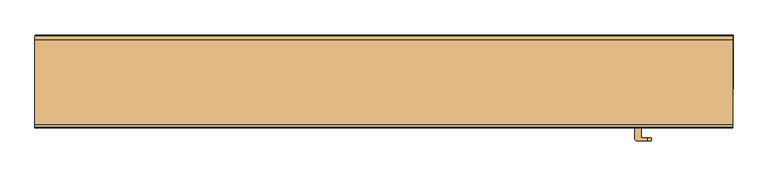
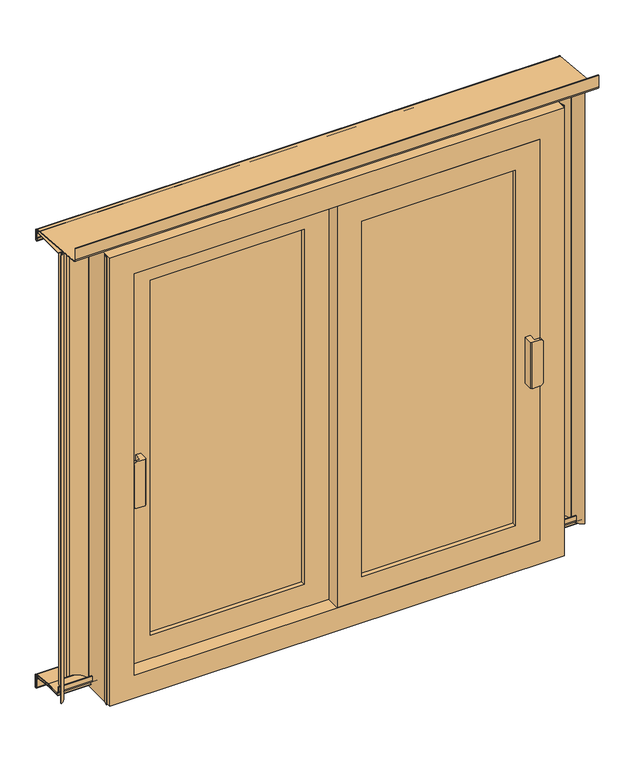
"""IFC4 building model written with IfcOpenShell, lengths in millimetres: door geometry, Fenetre pour Tenda V : Fenetre pour Tenda V."""

import ifcopenshell
import ifcopenshell.guid

model = None  # the IFC model being written
_history = None  # IfcOwnerHistory: only IFC2X3 demands one
_inside = {}  # id of a spatial element -> (the spatial element, [elements in it])
_under = {}  # id of a project, library or spatial element -> (it, [spatial elements below it])
_declared = {}  # id of a project -> (the project, [libraries it declares])
_typed = {}  # id of a type object -> (the type object, [elements of that type])
_made_of = {}  # id of a material, layer set ... -> (it, [elements and type objects made of it])


def new_model(schema):
    """Start an empty IFC model of exactly this schema.

    Asked for "IFC4X3", IfcOpenShell would pick the latest addendum, in which some entities
    have other attributes; the version numbers below select the first issue.
    IFC2X3 requires an IfcOwnerHistory on every rooted entity: one is made here for all.
    """
    global model, _history
    if schema == "IFC4X3":
        model = ifcopenshell.file(schema_version=(4, 3, 0, 0))
    else:
        model = ifcopenshell.file(schema=schema)
    _inside.clear()
    _under.clear()
    _declared.clear()
    _typed.clear()
    _made_of.clear()
    _history = None
    if model.schema == "IFC2X3":
        org = make("IfcOrganization", Name="unknown")
        user = make(
            "IfcPersonAndOrganization",
            ThePerson=make("IfcPerson", FamilyName="unknown"),
            TheOrganization=org,
        )
        app = make(
            "IfcApplication",
            ApplicationDeveloper=org,
            Version="unknown",
            ApplicationFullName="unknown",
            ApplicationIdentifier="unknown",
        )
        _history = make(
            "IfcOwnerHistory",
            OwningUser=user,
            OwningApplication=app,
            ChangeAction="ADDED",
            CreationDate=0,
        )
    return model


def make(cls, **values):
    """One entity of the class cls with the attributes given. An attribute that is None is left unset."""
    return model.create_entity(
        cls, **{name: value for name, value in values.items() if value is not None}
    )


def rooted(cls, **values):
    """An entity with a GlobalId (a new one), such as an element, a storey or a relation."""
    return make(cls, GlobalId=ifcopenshell.guid.new(), OwnerHistory=_history, **values)


def si_unit(unit_type, name, prefix=None):
    """IfcSIUnit, for example si_unit("LENGTHUNIT", "METRE", prefix="MILLI")."""
    return make("IfcSIUnit", UnitType=unit_type, Prefix=prefix, Name=name)


def assignment(units):
    """IfcUnitAssignment: the units of a project."""
    return None if units is None else make("IfcUnitAssignment", Units=units)


def point(xyz):
    """IfcCartesianPoint."""
    return None if xyz is None else make("IfcCartesianPoint", Coordinates=xyz)


def direction(xyz):
    """IfcDirection."""
    return None if xyz is None else make("IfcDirection", DirectionRatios=xyz)


def frame(location, z_axis=None, x_axis=None):
    """IfcAxis2Placement3D, a coordinate frame: its origin and axes. An axis left out is left unset."""
    return make(
        "IfcAxis2Placement3D",
        Location=point(location),
        Axis=direction(z_axis),
        RefDirection=direction(x_axis),
    )


def frame_2d(location, x_axis=None):
    """IfcAxis2Placement2D, a coordinate frame in the plane: its origin and x axis."""
    return make(
        "IfcAxis2Placement2D", Location=point(location), RefDirection=direction(x_axis)
    )


def origin():
    """The frame at (0, 0, 0) with its axes left unset."""
    return frame((0.0, 0.0, 0.0))


def origin_with_axes():
    """The frame at (0, 0, 0) with the z axis (0, 0, 1) and the x axis (1, 0, 0) written out."""
    return frame((0.0, 0.0, 0.0), z_axis=(0.0, 0.0, 1.0), x_axis=(1.0, 0.0, 0.0))


def place(relative_to, where):
    """IfcLocalPlacement: puts the frame where relative to a parent placement (None: the world)."""
    return make(
        "IfcLocalPlacement", PlacementRelTo=relative_to, RelativePlacement=where
    )


def context(
    kind, dimensions, precision=None, world=None, true_north=None, identifier=None
):
    """IfcGeometricRepresentationContext, for example the 3D "Model" context."""
    return make(
        "IfcGeometricRepresentationContext",
        ContextIdentifier=identifier,
        ContextType=kind,
        CoordinateSpaceDimension=dimensions,
        Precision=precision,
        WorldCoordinateSystem=world,
        TrueNorth=true_north,
    )


def project(units=None, contexts=None):
    """IfcProject with its units and contexts."""
    return rooted(
        "IfcProject",
        Name="project",
        RepresentationContexts=contexts,
        UnitsInContext=assignment(units),
    )


def spatial(cls, under=None, at=None, **own):
    """A site, building, storey or space (cls), placed at a placement, below another one or the project."""
    s = rooted(cls, ObjectPlacement=at, **own)
    if under is not None:
        _under.setdefault(under.id(), (under, []))[1].append(s)
    return s


def polyline(points):
    """IfcPolyline through the points."""
    return make("IfcPolyline", Points=[point(p) for p in points])


def circle_curve(where, radius):
    """IfcCircle in the frame where."""
    return make("IfcCircle", Position=where, Radius=radius)


def trimmed(basis, trim1, trim2, sense, master):
    """IfcTrimmedCurve: the piece of a basis curve between two trims."""
    return make(
        "IfcTrimmedCurve",
        BasisCurve=basis,
        Trim1=trim1,
        Trim2=trim2,
        SenseAgreement=sense,
        MasterRepresentation=master,
    )


def segment(curve, same_sense, transition):
    """IfcCompositeCurveSegment."""
    return make(
        "IfcCompositeCurveSegment",
        Transition=transition,
        SameSense=same_sense,
        ParentCurve=curve,
    )


def composite_curve(segments, self_intersect=None):
    """IfcCompositeCurve: segments joined end to end."""
    return make("IfcCompositeCurve", Segments=segments, SelfIntersect=self_intersect)


def outline(outer, holes=None, kind="AREA"):
    """IfcArbitraryClosedProfileDef: a profile drawn as a closed curve; with holes, ...WithVoids."""
    if holes is None:
        return make("IfcArbitraryClosedProfileDef", ProfileType=kind, OuterCurve=outer)
    return make(
        "IfcArbitraryProfileDefWithVoids",
        ProfileType=kind,
        OuterCurve=outer,
        InnerCurves=holes,
    )


def extrude(swept, where, along, depth):
    """IfcExtrudedAreaSolid: the profile swept, set in the frame where, extruded along a direction by depth."""
    return make(
        "IfcExtrudedAreaSolid",
        SweptArea=swept,
        Position=where,
        ExtrudedDirection=direction(along),
        Depth=depth,
    )


def faces_of(points, faces, orient=None, outer=None):
    """IfcFace entities. A face is a list of loops; a loop is a list of indices into points, from 0.

    orient and outer hold one flag for each loop. By default every Orientation is true, the
    first loop of a face is its IfcFaceOuterBound and the others are IfcFaceBound.
    """
    made = []
    for i, loops in enumerate(faces):
        bounds = []
        for j, loop in enumerate(loops):
            is_outer = j == 0 if outer is None else outer[i][j]
            bounds.append(
                make(
                    "IfcFaceOuterBound" if is_outer else "IfcFaceBound",
                    Bound=make("IfcPolyLoop", Polygon=[points[k] for k in loop]),
                    Orientation=True if orient is None else orient[i][j],
                )
            )
        made.append(make("IfcFace", Bounds=bounds))
    return made


def faceted_brep(points, faces, orient=None, outer=None, voids=None):
    """IfcFacetedBrep: a solid bounded by flat faces; with voids (closed shells), ...WithVoids."""
    shared = [point(p) for p in points]
    hull = make("IfcClosedShell", CfsFaces=faces_of(shared, faces, orient, outer))
    if voids is None:
        return make("IfcFacetedBrep", Outer=hull)
    return make(
        "IfcFacetedBrepWithVoids",
        Outer=hull,
        Voids=[
            make(cls, CfsFaces=faces_of(shared, fs, o, b)) for cls, fs, o, b in voids
        ],
    )


def shape(context_of_items, identifier, shape_type, items):
    """IfcShapeRepresentation: the items that make up one representation, for example the "Body"."""
    return make(
        "IfcShapeRepresentation",
        ContextOfItems=context_of_items,
        RepresentationIdentifier=identifier,
        RepresentationType=shape_type,
        Items=items,
    )


def source(mapping_origin, context_of_items, identifier, shape_type, items):
    """IfcRepresentationMap: a shape defined once, which mapped items show again and again."""
    return make(
        "IfcRepresentationMap",
        MappingOrigin=mapping_origin,
        MappedRepresentation=shape(context_of_items, identifier, shape_type, items),
    )


def transform(
    local_origin,
    x_axis=None,
    y_axis=None,
    z_axis=None,
    scale=None,
    scale2=None,
    scale3=None,
    uniform=True,
):
    """IfcCartesianTransformationOperator3D, or its non-uniform kind. x_axis, y_axis, z_axis: its Axis1, 2, 3."""
    if uniform:
        return make(
            "IfcCartesianTransformationOperator3D",
            Axis1=direction(x_axis),
            Axis2=direction(y_axis),
            LocalOrigin=point(local_origin),
            Scale=scale,
            Axis3=direction(z_axis),
        )
    return make(
        "IfcCartesianTransformationOperator3DnonUniform",
        Axis1=direction(x_axis),
        Axis2=direction(y_axis),
        LocalOrigin=point(local_origin),
        Scale=scale,
        Axis3=direction(z_axis),
        Scale2=scale2,
        Scale3=scale3,
    )


def mapped(mapping_source, mapping_target):
    """IfcMappedItem: shows the shape of a source again, moved by a transform."""
    return make(
        "IfcMappedItem", MappingSource=mapping_source, MappingTarget=mapping_target
    )


def made_of(thing, what):
    """Note that an element or type object is made of a material, layer set ...; save() writes the relation."""
    if what is not None:
        _made_of.setdefault(what.id(), (what, []))[1].append(thing)
    return thing


def element(
    cls,
    number,
    at=None,
    inside=None,
    cuts=None,
    type_object=None,
    material=None,
    context=None,
    identifier="Body",
    shape_type=None,
    held_by="IfcProductDefinitionShape",
    body=None,
    shapes=None,
    **own,
):
    """One element of the class cls, such as IfcWall. Its Tag is "e" and its number.

    at: its placement. inside: the storey or other place that contains it. cuts: it is an
    opening in that element (IfcRelVoidsElement). A single representation is given by context,
    identifier, shape_type and body (its items); several are given by shapes. held_by: the class
    of the entity that holds the representations. save() writes the other relations.
    """
    e = rooted(cls, Tag="e%d" % number, ObjectPlacement=at, **own)
    if body is not None:
        shapes = [shape(context, identifier, shape_type, body)]
    if shapes is not None:
        e.Representation = make(held_by, Representations=shapes)
    if inside is not None:
        _inside.setdefault(inside.id(), (inside, []))[1].append(e)
    if cuts is not None:
        rooted(
            "IfcRelVoidsElement", RelatingBuildingElement=cuts, RelatedOpeningElement=e
        )
    if type_object is not None:
        _typed.setdefault(type_object.id(), (type_object, []))[1].append(e)
    return made_of(e, material)


def aggregate(whole, parts):
    """IfcRelAggregates: a whole, such as a stair, and the parts it consists of."""
    return rooted("IfcRelAggregates", RelatingObject=whole, RelatedObjects=parts)


def save(model, path):
    """Write the relations noted so far, then the file.

    IfcRelAggregates (storeys below a building ...), IfcRelContainedInSpatialStructure (elements
    in a storey), IfcRelDefinesByType, IfcRelAssociatesMaterial and IfcRelDeclares: one each for
    every whole, place, type object, material and project.
    """
    for whole, parts in _under.values():
        aggregate(whole, parts)
    for where, things in _inside.values():
        rooted(
            "IfcRelContainedInSpatialStructure",
            RelatedElements=things,
            RelatingStructure=where,
        )
    for kind, things in _typed.values():
        rooted("IfcRelDefinesByType", RelatedObjects=things, RelatingType=kind)
    for what, things in _made_of.values():
        rooted("IfcRelAssociatesMaterial", RelatedObjects=things, RelatingMaterial=what)
    for by, libraries in _declared.values():
        rooted("IfcRelDeclares", RelatingContext=by, RelatedDefinitions=libraries)
    model.write(path)


def plane_surface(at):
    """IfcPlane: the flat surface through the origin of the frame at, square to its z axis."""
    return make("IfcPlane", Position=at)


def cylinder_surface(at, radius):
    """IfcCylindricalSurface: all points at the distance radius from the z axis of the frame at."""
    return make("IfcCylindricalSurface", Position=at, Radius=radius)


def advanced_brep(points, edges, surfaces, faces):
    """IfcAdvancedBrep: a solid bounded by faces that lie on surfaces and meet in shared edges.

    An edge is (start, end): straight between two places in points (the first is 0);
    or (start, end, curve); or (start, end, curve, False) where it runs against its curve.
    A face is (place in surfaces, loops), or (place, loops, False) where it looks against
    its surface's normal. A loop lists edges by number (the first is 1), with a minus sign
    where the edge is run from its end to its start. The first loop is the outer one.
    """
    corners = [point(p) for p in points]
    vertices = [make("IfcVertexPoint", VertexGeometry=c) for c in corners]
    made = []
    for start, end, *more in edges:
        made.append(
            make(
                "IfcEdgeCurve",
                EdgeStart=vertices[start],
                EdgeEnd=vertices[end],
                EdgeGeometry=more[0] if more else make("IfcPolyline", Points=[corners[start], corners[end]]),
                SameSense=more[1] if len(more) > 1 else True,
            )
        )
    hull = []
    for where, loops, *sense in faces:
        bounds = []
        for j, loop in enumerate(loops):
            ring = [make("IfcOrientedEdge", EdgeElement=made[abs(k) - 1], Orientation=k > 0) for k in loop]
            bounds.append(
                make(
                    "IfcFaceOuterBound" if j == 0 else "IfcFaceBound",
                    Bound=make("IfcEdgeLoop", EdgeList=ring),
                    Orientation=True,
                )
            )
        hull.append(make("IfcAdvancedFace", Bounds=bounds, FaceSurface=surfaces[where], SameSense=sense[0] if sense else True))
    return make("IfcAdvancedBrep", Outer=make("IfcClosedShell", CfsFaces=hull))


def door_b409336b(model_context):
    return source(origin(), model_context, "Body", "SolidModel", [
        advanced_brep(
        [(384.0, -60.7721751, 400.0), (384.0, -43.2408569, 400.0), (394.0, -43.2408569, 400.0), (394.0, -58.2408569, 400.0), (403.0477825, -58.2408569, 400.0), (403.0477825, -63.2408569, 400.0), (386.4686818, -63.2408569, 400.0), (384.0, -60.7721751, 500.0), (386.4686818, -63.2408569, 500.0), (403.0477825, -63.2408569, 500.0), (403.0477825, -58.2408569, 500.0), (394.0, -58.2408569, 500.0), (394.0, -43.2408569, 500.0), (384.0, -43.2408569, 500.0), (409.0, -58.2408569, 494.0477825), (409.0, -58.2408569, 405.9522175), (409.0, -63.2408569, 494.0477825), (409.0, -63.2408569, 405.9522175)],
        [
            (0, 1),
            (1, 2),
            (2, 3),
            (3, 4),
            (4, 5),
            (5, 6),
            (6, 0),
            (7, 8),
            (8, 9),
            (9, 10),
            (10, 11),
            (11, 12),
            (12, 13),
            (13, 7),
            (0, 7),
            (13, 1),
            (12, 2),
            (11, 3),
            (10, 14, circle_curve(frame((403.0477825, -58.2408569, 494.0477825), z_axis=(0.0, 1.0, 0.0), x_axis=(1.0, 0.0, 0.0)), 5.9522175)),
            (14, 15),
            (15, 4, circle_curve(frame((403.0477825, -58.2408569, 405.9522175), z_axis=(0.0, 1.0, 0.0), x_axis=(1.0, 0.0, 0.0)), 5.9522175)),
            (14, 16),
            (16, 17),
            (17, 15),
            (8, 6),
            (5, 17, circle_curve(frame((403.0477825, -63.2408569, 405.9522175), z_axis=(0.0, -1.0, 0.0), x_axis=(1.0, 0.0, 0.0)), 5.9522175)),
            (16, 9, circle_curve(frame((403.0477825, -63.2408569, 494.0477825), z_axis=(0.0, -1.0, 0.0), x_axis=(1.0, 0.0, 0.0)), 5.9522175)),
        ],
        [
            plane_surface(frame((384.0, -43.2408569, 400.0), z_axis=(0.0, 0.0, -1.0), x_axis=(0.0, 1.0, 0.0))),
            plane_surface(frame((384.0, -43.2408569, 500.0), z_axis=(0.0, 0.0, 1.0), x_axis=(0.0, -1.0, 0.0))),
            plane_surface(frame((384.0, -60.7721751, 400.0), z_axis=(-1.0, 0.0, 0.0), x_axis=(0.0, 0.0, 1.0))),
            plane_surface(frame((384.0, -43.2408569, 400.0), z_axis=(0.0, 1.0, 0.0), x_axis=(0.0, 0.0, 1.0))),
            plane_surface(frame((394.0, -43.2408569, 400.0), z_axis=(1.0, 0.0, 0.0), x_axis=(0.0, 0.0, 1.0))),
            plane_surface(frame((394.0, -58.2408569, 400.0), z_axis=(0.0, 1.0, 0.0), x_axis=(0.0, 0.0, 1.0))),
            plane_surface(frame((409.0, -58.2408569, 400.0), z_axis=(1.0, 0.0, 0.0), x_axis=(0.0, 0.0, 1.0))),
            plane_surface(frame((409.0, -63.2408569, 400.0), z_axis=(0.0, -1.0, 0.0), x_axis=(0.0, 0.0, 1.0))),
            plane_surface(frame((386.4686818, -63.2408569, 400.0), z_axis=(-0.7071067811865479, -0.7071067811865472, 0.0), x_axis=(0.0, 0.0, 1.0))),
            cylinder_surface(frame((403.0477825, -58.2408569, 494.0477825), z_axis=(0.0, 1.0, 0.0), x_axis=(1.0, 0.0, 0.0)), 5.9522175),
            cylinder_surface(frame((403.0477825, -58.2408569, 405.9522175), z_axis=(0.0, 1.0, 0.0), x_axis=(1.0, 0.0, 0.0)), 5.9522175),
        ],
        [
            (0, [[1, 2, 3, 4, 5, 6, 7]]),
            (1, [[8, 9, 10, 11, 12, 13, 14]]),
            (2, [[-1, 15, -14, 16]]),
            (3, [[-2, -16, -13, 17]]),
            (4, [[-3, -17, -12, 18]]),
            (5, [[-18, -11, 19, 20, 21, -4]]),
            (6, [[-20, 22, 23, 24]]),
            (7, [[25, -6, 26, -23, 27, -9]]),
            (8, [[-7, -25, -8, -15]]),
            (9, [[-10, -27, -22, -19]]),
            (10, [[-5, -21, -24, -26]]),
        ],
    ),
        advanced_brep(
        [(-384.0, -30.7721751, 400.0), (-386.4686818, -33.2408569, 400.0), (-403.0477825, -33.2408569, 400.0), (-403.0477825, -28.2408569, 400.0), (-394.0, -28.2408569, 400.0), (-394.0, -13.2408569, 400.0), (-384.0, -13.2408569, 400.0), (-384.0, -30.7721751, 500.0), (-384.0, -13.2408569, 500.0), (-394.0, -13.2408569, 500.0), (-394.0, -28.2408569, 500.0), (-403.0477825, -28.2408569, 500.0), (-403.0477825, -33.2408569, 500.0), (-386.4686818, -33.2408569, 500.0), (-409.0, -28.2408569, 405.9522175), (-409.0, -28.2408569, 494.0477825), (-409.0, -33.2408569, 405.9522175), (-409.0, -33.2408569, 494.0477825)],
        [
            (0, 1),
            (1, 2),
            (2, 3),
            (3, 4),
            (4, 5),
            (5, 6),
            (6, 0),
            (7, 8),
            (8, 9),
            (9, 10),
            (10, 11),
            (11, 12),
            (12, 13),
            (13, 7),
            (6, 8),
            (7, 0),
            (5, 9),
            (4, 10),
            (3, 14, circle_curve(frame((-403.0477825, -28.2408569, 405.9522175), z_axis=(0.0, 1.0, 0.0), x_axis=(-1.0, 0.0, 0.0)), 5.9522175)),
            (14, 15),
            (15, 11, circle_curve(frame((-403.0477825, -28.2408569, 494.0477825), z_axis=(0.0, 1.0, 0.0), x_axis=(-1.0, 0.0, 0.0)), 5.9522175)),
            (14, 16),
            (16, 17),
            (17, 15),
            (12, 17, circle_curve(frame((-403.0477825, -33.2408569, 494.0477825), z_axis=(0.0, -1.0, 0.0), x_axis=(-1.0, 0.0, 0.0)), 5.9522175)),
            (16, 2, circle_curve(frame((-403.0477825, -33.2408569, 405.9522175), z_axis=(0.0, -1.0, 0.0), x_axis=(-1.0, 0.0, 0.0)), 5.9522175)),
            (1, 13),
        ],
        [
            plane_surface(frame((-384.0, -13.2408569, 400.0), z_axis=(0.0, 0.0, -1.0), x_axis=(0.0, 1.0, 0.0))),
            plane_surface(frame((-384.0, -13.2408569, 500.0), z_axis=(0.0, 0.0, 1.0), x_axis=(0.0, -1.0, 0.0))),
            plane_surface(frame((-384.0, -30.7721751, 400.0), z_axis=(1.0, 0.0, 0.0), x_axis=(0.0, 0.0, 1.0))),
            plane_surface(frame((-384.0, -13.2408569, 400.0), z_axis=(0.0, 1.0, 0.0), x_axis=(0.0, 0.0, 1.0))),
            plane_surface(frame((-394.0, -13.2408569, 400.0), z_axis=(-1.0, 0.0, 0.0), x_axis=(0.0, 0.0, 1.0))),
            plane_surface(frame((-394.0, -28.2408569, 400.0), z_axis=(0.0, 1.0, 0.0), x_axis=(0.0, 0.0, 1.0))),
            plane_surface(frame((-409.0, -28.2408569, 400.0), z_axis=(-1.0, 0.0, 0.0), x_axis=(0.0, 0.0, 1.0))),
            plane_surface(frame((-409.0, -33.2408569, 400.0), z_axis=(0.0, -1.0, 0.0), x_axis=(0.0, 0.0, 1.0))),
            plane_surface(frame((-386.4686818, -33.2408569, 400.0), z_axis=(0.7071067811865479, -0.7071067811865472, 0.0), x_axis=(0.0, 0.0, 1.0))),
            cylinder_surface(frame((-403.0477825, -28.2408569, 494.0477825), z_axis=(0.0, 1.0, 0.0), x_axis=(-1.0, 0.0, 0.0)), 5.9522175),
            cylinder_surface(frame((-403.0477825, -28.2408569, 405.9522175), z_axis=(0.0, 1.0, 0.0), x_axis=(-1.0, 0.0, 0.0)), 5.9522175),
        ],
        [
            (0, [[1, 2, 3, 4, 5, 6, 7]]),
            (1, [[8, 9, 10, 11, 12, 13, 14]]),
            (2, [[15, -8, 16, -7]]),
            (3, [[17, -9, -15, -6]]),
            (4, [[18, -10, -17, -5]]),
            (5, [[-4, 19, 20, 21, -11, -18]]),
            (6, [[22, 23, 24, -20]]),
            (7, [[-13, 25, -23, 26, -2, 27]]),
            (8, [[-16, -14, -27, -1]]),
            (9, [[-21, -24, -25, -12]]),
            (10, [[-26, -22, -19, -3]]),
        ],
    ),
        faceted_brep([(-404.0, 16.7591431, 906.6666667), (-404.0, 26.7591431, 906.6666667), (404.0, 26.7591431, 906.6666667), (404.0, 16.7591431, 906.6666667), (-414.0, -43.2408569, 916.6666667), (-414.0, 16.7591431, 916.6666667), (414.0, 16.7591431, 916.6666667), (414.0, -43.2408569, 916.6666667), (-464.0, 26.7591431, 966.6666667), (-464.0, -43.2408569, 966.6666667), (464.0, -43.2408569, 966.6666667), (464.0, 26.7591431, 966.6666667), (404.0, 26.7591431, 60.0), (404.0, 16.7591431, 60.0), (414.0, 16.7591431, 50.0), (414.0, -43.2408569, 50.0), (464.0, -43.2408569, 0.0), (464.0, 26.7591431, 0.0), (-404.0, 26.7591431, 60.0), (-404.0, 16.7591431, 60.0), (-414.0, 16.7591431, 50.0), (-414.0, -43.2408569, 50.0), (-464.0, -43.2408569, 0.0), (-464.0, 26.7591431, 0.0)], [[[0, 1, 2, 3]], [[4, 5, 6, 7]], [[8, 9, 10, 11]], [[3, 2, 12, 13]], [[7, 6, 14, 15]], [[11, 10, 16, 17]], [[13, 12, 18, 19]], [[15, 14, 20, 21]], [[17, 16, 22, 23]], [[11, 17, 23, 8], [1, 18, 12, 2]], [[19, 18, 1, 0]], [[5, 20, 14, 6], [3, 13, 19, 0]], [[21, 20, 5, 4]], [[9, 22, 16, 10], [7, 15, 21, 4]], [[23, 22, 9, 8]]]),
        extrude(outline(polyline([(916.6666667, -414.0), (50.0, -414.0), (50.0, 0.0), (916.6666667, 0.0), (916.6666667, -414.0)]), holes=[polyline([(866.6666667, -50.0), (100.0, -50.0), (100.0, -364.0), (866.6666667, -364.0), (866.6666667, -50.0)])]), frame((0.0, -13.2408569, 0.0), z_axis=(0.0, 1.0, 0.0), x_axis=(0.0, 0.0, 1.0)), (0.0, 0.0, 1.0), 30.0),
        extrude(outline(polyline([(-364.0, 7.7591431), (-50.0, 7.7591431), (-50.0, -4.2408569), (-364.0, -4.2408569), (-364.0, 7.7591431)])), frame((0.0, 0.0, 100.0), z_axis=(0.0, 0.0, 1.0), x_axis=(1.0, 0.0, 0.0)), (0.0, 0.0, 1.0), 766.6666667),
        extrude(outline(polyline([(50.0, 414.0), (916.6666667, 414.0), (916.6666667, 0.0), (50.0, 0.0), (50.0, 414.0)]), holes=[polyline([(100.0, 50.0), (866.6666667, 50.0), (866.6666667, 364.0), (100.0, 364.0), (100.0, 50.0)])]), frame((0.0, -43.2408569, 0.0), z_axis=(0.0, 1.0, 0.0), x_axis=(0.0, 0.0, 1.0)), (0.0, 0.0, 1.0), 30.0),
        extrude(outline(polyline([(50.0, -22.2408569), (364.0, -22.2408569), (364.0, -34.2408569), (50.0, -34.2408569), (50.0, -22.2408569)])), frame((0.0, 0.0, 100.0), z_axis=(0.0, 0.0, 1.0), x_axis=(1.0, 0.0, 0.0)), (0.0, 0.0, 1.0), 766.6666667),
        extrude(outline(composite_curve([segment(trimmed(circle_curve(frame_2d((91.742772, 966.2108955)), 5.75), [point((92.2439175, 971.939015))], [point((97.492772, 966.2108955))], False, "CARTESIAN"), True, "CONTINUOUS"), segment(polyline([(97.492772, 966.2108955), (97.492772, 948.7475667)]), True, "CONTINUOUS"), segment(trimmed(circle_curve(frame_2d((94.492772, 948.7475667)), 3.0), [point((97.492772, 948.7475667))], [point((91.492772, 948.7475667))], False, "CARTESIAN"), True, "CONTINUOUS"), segment(polyline([(91.492772, 948.7475667), (91.492772, 953.7475667), (92.492772, 953.7475667), (92.492772, 948.7475667)]), True, "CONTINUOUS"), segment(trimmed(circle_curve(frame_2d((94.492772, 948.7475667)), 2.0), [point((92.492772, 948.7475667))], [point((96.492772, 948.7475667))], True, "CARTESIAN"), True, "CONTINUOUS"), segment(polyline([(96.492772, 948.7475667), (96.492772, 965.9818127)]), True, "CONTINUOUS"), segment(trimmed(circle_curve(frame_2d((91.492772, 965.9818127)), 5.0), [point((96.492772, 965.9818127))], [point((91.9285507, 970.9627862))], True, "CARTESIAN"), True, "CONTINUOUS"), segment(polyline([(91.9285507, 970.9627862), (-37.9920024, 982.3293617)]), True, "CONTINUOUS"), segment(trimmed(circle_curve(frame_2d((-37.4908569, 988.0574812)), 5.75), [point((-37.9920024, 982.3293617))], [point((-43.2408569, 988.0574812))], False, "CARTESIAN"), True, "CONTINUOUS"), segment(polyline([(-43.2408569, 988.0574812), (-43.2408569, 1012.8300215), (-42.2408569, 1012.8300215), (-42.2408569, 988.286564)]), True, "CONTINUOUS"), segment(trimmed(circle_curve(frame_2d((-37.2408569, 988.286564)), 5.0), [point((-42.2408569, 988.286564))], [point((-37.6766356, 983.3055905))], True, "CARTESIAN"), True, "CONTINUOUS"), segment(polyline([(-37.6766356, 983.3055905), (92.2439175, 971.939015)]), True, "CONTINUOUS")], self_intersect=False)), frame((-534.4992145, 0.0, 0.0), z_axis=(1.0, 0.0, 0.0), x_axis=(0.0, 1.0, 0.0)), (0.0, 0.0, 1.0), 1068.5301791),
        extrude(outline(composite_curve([segment(trimmed(circle_curve(frame_2d((89.242772, 961.9166667)), 5.75), [point((89.242772, 967.6666667))], [point((94.992772, 961.9166667))], False, "CARTESIAN"), True, "CONTINUOUS"), segment(polyline([(94.992772, 961.9166667), (94.992772, 951.6666667), (93.992772, 951.6666667), (93.992772, 961.6666667)]), True, "CONTINUOUS"), segment(trimmed(circle_curve(frame_2d((88.992772, 961.6666667)), 5.0), [point((93.992772, 961.6666667))], [point((88.992772, 966.6666667))], True, "CARTESIAN"), True, "CONTINUOUS"), segment(polyline([(88.992772, 966.6666667), (16.7591431, 966.6666667), (16.7591431, 967.6666667), (89.242772, 967.6666667)]), True, "CONTINUOUS")], self_intersect=False)), frame((-534.4992145, 0.0, 0.0), z_axis=(1.0, 0.0, 0.0), x_axis=(0.0, 1.0, 0.0)), (0.0, 0.0, 1.0), 1068.5301791),
        extrude(outline(composite_curve([segment(polyline([(-464.0, 31.7591431), (-464.0, 30.0166386), (-464.0, -26.7620699), (-466.6384309, -36.6088282), (-467.6043568, -36.3500091), (-465.0, -26.6304174), (-465.0, 30.0166386), (-465.0, 31.7591431)]), True, "CONTINUOUS"), segment(trimmed(circle_curve(frame_2d((-489.0, 31.7591431)), 24.0), [point((-465.0, 31.7591431))], [point((-489.0, 55.7591431))], True, "CARTESIAN"), True, "CONTINUOUS"), segment(polyline([(-489.0, 55.7591431), (-496.2054608, 55.7591431)]), True, "CONTINUOUS"), segment(trimmed(circle_curve(frame_2d((-496.2054608, 31.7591431)), 24.0), [point((-496.2054608, 55.7591431))], [point((-520.2054608, 31.7591431))], True, "CARTESIAN"), True, "CONTINUOUS"), segment(polyline([(-520.2054608, 31.7591431), (-520.2054608, 29.7379301)]), True, "CONTINUOUS"), segment(trimmed(circle_curve(frame_2d((-546.2054608, 29.7379301)), 26.0), [point((-520.2054608, 29.7379301))], [point((-534.0309646, 6.7644313))], False, "CARTESIAN"), True, "CONTINUOUS"), segment(polyline([(-534.0309646, 6.7644313), (-534.4992145, 7.6480275)]), True, "CONTINUOUS"), segment(trimmed(circle_curve(frame_2d((-546.2054608, 29.7379301)), 25.0), [point((-534.4992145, 7.6480275))], [point((-521.2054608, 29.7379301))], True, "CARTESIAN"), True, "CONTINUOUS"), segment(polyline([(-521.2054608, 29.7379301), (-521.2054608, 31.7591431)]), True, "CONTINUOUS"), segment(trimmed(circle_curve(frame_2d((-496.2054608, 31.7591431)), 25.0), [point((-521.2054608, 31.7591431))], [point((-496.2054608, 56.7591431))], False, "CARTESIAN"), True, "CONTINUOUS"), segment(polyline([(-496.2054608, 56.7591431), (-489.0, 56.7591431)]), True, "CONTINUOUS"), segment(trimmed(circle_curve(frame_2d((-489.0, 31.7591431)), 25.0), [point((-489.0, 56.7591431))], [point((-464.0, 31.7591431))], False, "CARTESIAN"), True, "CONTINUOUS")], self_intersect=False)), origin_with_axes(), (0.0, 0.0, 1.0), 966.6666667),
        extrude(outline(composite_curve([segment(trimmed(circle_curve(frame_2d((489.0, 31.7591431)), 25.0), [point((464.0, 31.7591431))], [point((489.0, 56.7591431))], False, "CARTESIAN"), True, "CONTINUOUS"), segment(polyline([(489.0, 56.7591431), (496.2054608, 56.7591431)]), True, "CONTINUOUS"), segment(trimmed(circle_curve(frame_2d((496.2054608, 31.7591431)), 25.0), [point((496.2054608, 56.7591431))], [point((521.2054608, 31.7591431))], False, "CARTESIAN"), True, "CONTINUOUS"), segment(polyline([(521.2054608, 31.7591431), (521.2054608, 29.7379301)]), True, "CONTINUOUS"), segment(trimmed(circle_curve(frame_2d((546.2054608, 29.7379301)), 25.0), [point((521.2054608, 29.7379301))], [point((534.4992145, 7.6480275))], True, "CARTESIAN"), True, "CONTINUOUS"), segment(polyline([(534.4992145, 7.6480275), (534.0309646, 6.7644313)]), True, "CONTINUOUS"), segment(trimmed(circle_curve(frame_2d((546.2054608, 29.7379301)), 26.0), [point((534.0309646, 6.7644313))], [point((520.2054608, 29.7379301))], False, "CARTESIAN"), True, "CONTINUOUS"), segment(polyline([(520.2054608, 29.7379301), (520.2054608, 31.7591431)]), True, "CONTINUOUS"), segment(trimmed(circle_curve(frame_2d((496.2054608, 31.7591431)), 24.0), [point((520.2054608, 31.7591431))], [point((496.2054608, 55.7591431))], True, "CARTESIAN"), True, "CONTINUOUS"), segment(polyline([(496.2054608, 55.7591431), (489.0, 55.7591431)]), True, "CONTINUOUS"), segment(trimmed(circle_curve(frame_2d((489.0, 31.7591431)), 24.0), [point((489.0, 55.7591431))], [point((465.0, 31.7591431))], True, "CARTESIAN"), True, "CONTINUOUS"), segment(polyline([(465.0, 31.7591431), (465.0, -26.6304174), (467.6043568, -36.3500091), (466.6384309, -36.6088282), (464.0, -26.7620699), (464.0, 31.7591431)]), True, "CONTINUOUS")], self_intersect=False)), frame((0.0, 0.0, 13.8493885), z_axis=(0.0, 0.0, 1.0), x_axis=(1.0, 0.0, 0.0)), (0.0, 0.0, 1.0), 952.8172782),
        extrude(outline(composite_curve([segment(trimmed(circle_curve(frame_2d((22.5091431, 19.5993885)), 5.75), [point((22.5091431, 13.8493885))], [point((16.7591431, 19.5993885))], False, "CARTESIAN"), True, "CONTINUOUS"), segment(polyline([(16.7591431, 19.5993885), (16.7591431, 29.7657197), (17.7591431, 29.7657197), (17.7591431, 19.7657197)]), True, "CONTINUOUS"), segment(trimmed(circle_curve(frame_2d((22.7591431, 19.7657197)), 5.0), [point((17.7591431, 19.7657197))], [point((22.7591431, 14.7657197))], True, "CARTESIAN"), True, "CONTINUOUS"), segment(polyline([(22.7591431, 14.7657197), (53.6757766, 14.7657197), (94.8343667, 9.6057488)]), True, "CONTINUOUS"), segment(trimmed(circle_curve(frame_2d((94.1190997, 3.9004098)), 5.75), [point((94.8343667, 9.6057488))], [point((99.8690997, 3.9004098))], False, "CARTESIAN"), True, "CONTINUOUS"), segment(polyline([(99.8690997, 3.9004098), (99.8690997, -18.5280564)]), True, "CONTINUOUS"), segment(trimmed(circle_curve(frame_2d((97.3690997, -18.5254444)), 2.5000014), [point((99.8690997, -18.5280564))], [point((94.8690997, -18.5280564))], False, "CARTESIAN"), True, "CONTINUOUS"), segment(polyline([(94.8690997, -18.5280564), (94.8690997, -1.0254457), (95.8690997, -1.0254457), (95.8690997, -18.5280564)]), True, "CONTINUOUS"), segment(trimmed(circle_curve(frame_2d((97.3690997, -18.5571543)), 1.5002822), [point((95.8690997, -18.5280564))], [point((98.8690997, -18.5280564))], True, "CARTESIAN"), True, "CONTINUOUS"), segment(polyline([(98.8690997, -18.5280564), (98.8690997, 3.6459235)]), True, "CONTINUOUS"), segment(trimmed(circle_curve(frame_2d((93.8690997, 3.6459235)), 5.0), [point((98.8690997, 3.6459235))], [point((94.491071, 8.6070879))], True, "CARTESIAN"), True, "CONTINUOUS"), segment(polyline([(94.491071, 8.6070879), (52.6757766, 13.8493885), (22.5091431, 13.8493885)]), True, "CONTINUOUS")], self_intersect=False)), frame((-534.0309646, 0.0, 0.0), z_axis=(1.0, 0.0, 0.0), x_axis=(0.0, 1.0, 0.0)), (0.0, 0.0, 1.0), 1068.5301791),
        extrude(outline(composite_curve([segment(trimmed(circle_curve(frame_2d((92.2656457, -0.5602154)), 5.75), [point((92.9885508, 5.1441609))], [point((98.0156457, -0.5602154))], False, "CARTESIAN"), True, "CONTINUOUS"), segment(polyline([(98.0156457, -0.5602154), (98.0156457, -18.7572246), (97.0156457, -18.7572246), (97.0156457, -0.8155942)]), True, "CONTINUOUS"), segment(trimmed(circle_curve(frame_2d((92.0156457, -0.8155942)), 5.0), [point((97.0156457, -0.8155942))], [point((92.6442588, 4.144733))], True, "CARTESIAN"), True, "CONTINUOUS"), segment(polyline([(92.6442588, 4.144733), (52.4234998, 9.2418357), (20.0166386, 9.2418357), (20.0166386, 10.1581669), (53.4234998, 10.1581669), (92.9885508, 5.1441609)]), True, "CONTINUOUS")], self_intersect=False)), frame((-534.0309646, 0.0, 0.0), z_axis=(1.0, 0.0, 0.0), x_axis=(0.0, 1.0, 0.0)), (0.0, 0.0, 1.0), 1068.5301791),
    ])


if __name__ == "__main__":
    model = new_model("IFC4")
    model_context = context("Model", 3, world=origin())
    ifc_project = project(units=[si_unit("LENGTHUNIT", "METRE", prefix="MILLI")], contexts=[model_context])
    site = spatial("IfcSite", under=ifc_project)
    building = spatial("IfcBuilding", under=site)
    placement = place(None, origin())
    door_shape = door_b409336b(model_context)
    element("IfcDoor", 1, ObjectType="Fenetre pour Tenda V : Fenetre pour Tenda V", at=placement, inside=building, context=model_context, shape_type="MappedRepresentation", body=[
        mapped(door_shape, transform((0.0, 0.0, 0.0), x_axis=(1.0, 0.0, 0.0), y_axis=(0.0, 1.0, 0.0), z_axis=(0.0, 0.0, 1.0))),
    ])
    save(model, "model.ifc")
